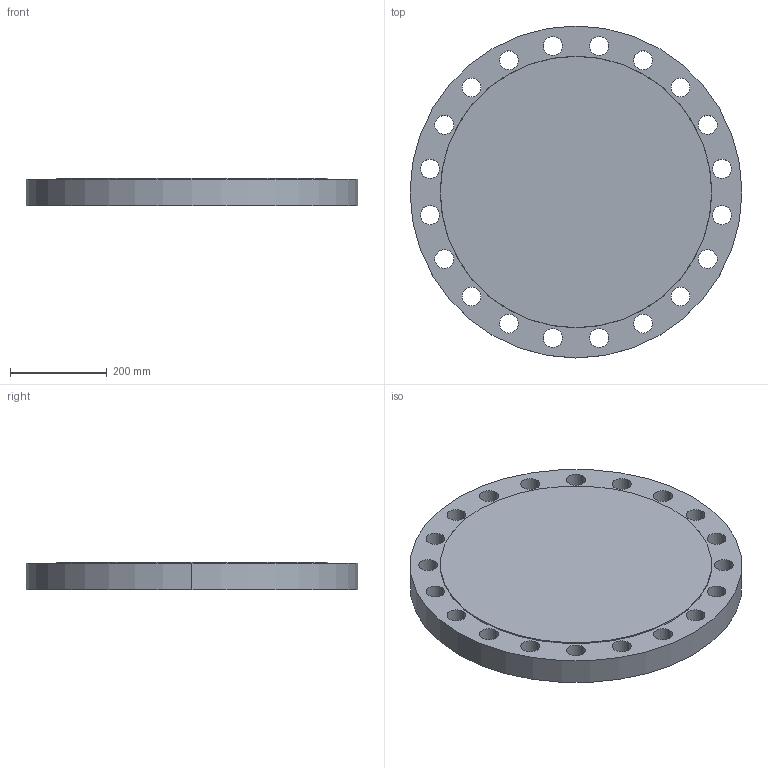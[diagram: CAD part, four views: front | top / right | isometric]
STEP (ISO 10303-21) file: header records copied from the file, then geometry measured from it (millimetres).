
FILE_DESCRIPTION (( 'STEP AP214' ), '1' );
FILE_NAME ('PN40 DN450 Type 05 - Type B Face.STEP', '2018-12-29T02:47:02', ( '' ), ( '' ), 'SwSTEP 2.0', 'SolidWorks 2019', '' );
FILE_SCHEMA (( 'AUTOMOTIVE_DESIGN' ));
Length unit declared in the file: millimetre
Products named in the file (1): PN40 DN450 Type 05 - Type B Face
Bounding box: 685 x 685 x 57 mm (x, y, z)
Volume: 19448237.7 mm3; surface area: 945361.4 mm2
Topology: 1 solids, 1 shells, 47 faces, 132 edges, 88 vertices
Faces by surface type: cylinder 42, plane 3, cone 2
Entity records: 1688 total; most frequent: DIRECTION 316, CARTESIAN_POINT 268, ORIENTED_EDGE 264, AXIS2_PLACEMENT_3D 136, EDGE_CURVE 132, EDGE_LOOP 88, CIRCLE 88, VERTEX_POINT 88
